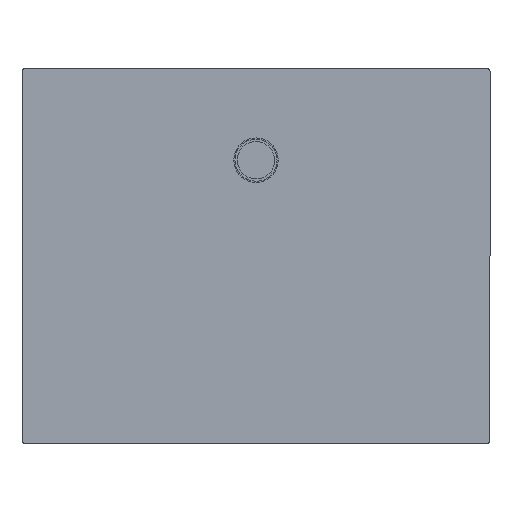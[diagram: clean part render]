
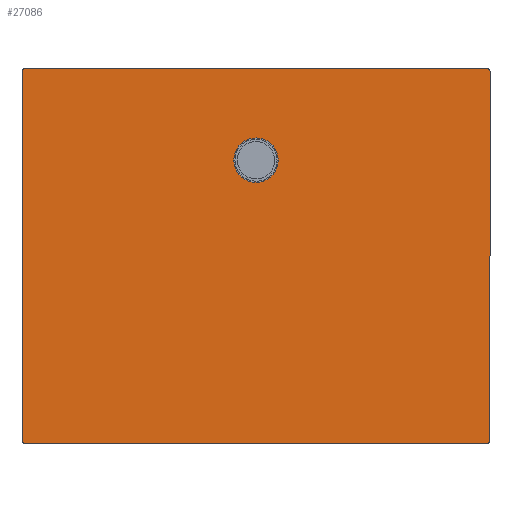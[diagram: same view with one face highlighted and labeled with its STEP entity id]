
A CAD part, front view. The second image highlights one B-rep face of the part: STEP entity #27086.
In plain terms, the highlighted planar face has unit normal (0, -1, 0).
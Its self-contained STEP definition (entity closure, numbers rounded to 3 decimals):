
#6941 = EDGE_LOOP ( 'NONE', ( #126104, #116680, #60200, #169422, #111875, #133953, #7779, #136006 ) ) ;
#7779 = ORIENTED_EDGE ( 'NONE', *, *, #47849, .F. ) ;
#8296 = DIRECTION ( 'NONE',  ( 1., 0., 0. ) ) ;
#9054 = LINE ( 'NONE', #126724, #114874 ) ;
#10847 = EDGE_CURVE ( 'NONE', #168323, #54880, #18102, .T. ) ;
#10975 = CARTESIAN_POINT ( 'NONE',  ( 500.698, -40., -600.699 ) ) ;
#12872 = CARTESIAN_POINT ( 'NONE',  ( 495.699, -40., -605.698 ) ) ;
#16513 = CARTESIAN_POINT ( 'NONE',  ( -495.699, -40., 195.698 ) ) ;
#16867 = VERTEX_POINT ( 'NONE', #89405 ) ;
#17803 = EDGE_CURVE ( 'NONE', #131172, #16867, #137944, .T. ) ;
#18102 =( BOUNDED_CURVE ( )  B_SPLINE_CURVE ( 3, ( #170037, #128833, #36965, #12872 ),
 .UNSPECIFIED., .F., .F. ) 
 B_SPLINE_CURVE_WITH_KNOTS ( ( 4, 4 ),
 ( 2.356, 3.927 ),
 .UNSPECIFIED. ) 
 CURVE ( )  GEOMETRIC_REPRESENTATION_ITEM ( )  RATIONAL_B_SPLINE_CURVE ( ( 1., 0.805, 0.805, 1. ) ) 
 REPRESENTATION_ITEM ( '' )  );
#25384 = EDGE_CURVE ( 'NONE', #131172, #44968, #9054, .T. ) ;
#27086 = ADVANCED_FACE ( 'NONE', ( #143657, #40627 ), #79298, .F. ) ;
#27518 = CARTESIAN_POINT ( 'NONE',  ( -498.628, -40., -605.698 ) ) ;
#32618 = AXIS2_PLACEMENT_3D ( 'NONE', #63750, #116126, #50864 ) ;
#33313 = EDGE_CURVE ( 'NONE', #67916, #44968, #138951, .T. ) ;
#36965 = CARTESIAN_POINT ( 'NONE',  ( 498.628, -40., -605.698 ) ) ;
#37407 = EDGE_CURVE ( 'NONE', #37457, #37457, #60070, .T. ) ;
#37457 = VERTEX_POINT ( 'NONE', #152569 ) ;
#37765 = EDGE_CURVE ( 'NONE', #168323, #89478, #128155, .T. ) ;
#38481 = VECTOR ( 'NONE', #45982, 1000. ) ;
#40529 = CARTESIAN_POINT ( 'NONE',  ( 498.628, -40., 195.698 ) ) ;
#40627 = FACE_OUTER_BOUND ( 'NONE', #6941, .T. ) ;
#41377 = CARTESIAN_POINT ( 'NONE',  ( 500.698, -40., 193.628 ) ) ;
#43397 = CARTESIAN_POINT ( 'NONE',  ( -500.698, -40., 190.699 ) ) ;
#43662 = VECTOR ( 'NONE', #8296, 1000. ) ;
#44968 = VERTEX_POINT ( 'NONE', #46553 ) ;
#45152 = EDGE_LOOP ( 'NONE', ( #86621 ) ) ;
#45982 = DIRECTION ( 'NONE',  ( -1., 0., 0. ) ) ;
#46553 = CARTESIAN_POINT ( 'NONE',  ( -500.698, -40., 190.699 ) ) ;
#47822 = LINE ( 'NONE', #64093, #43662 ) ;
#47849 = EDGE_CURVE ( 'NONE', #67916, #114670, #47822, .T. ) ;
#50864 = DIRECTION ( 'NONE',  ( 0., 0., 1. ) ) ;
#51592 = CARTESIAN_POINT ( 'NONE',  ( -500.698, -40., -600.699 ) ) ;
#51714 = CARTESIAN_POINT ( 'NONE',  ( 500.698, -40., 195. ) ) ;
#51807 = DIRECTION ( 'NONE',  ( 0., 0., 1. ) ) ;
#54880 = VERTEX_POINT ( 'NONE', #141551 ) ;
#55524 = CARTESIAN_POINT ( 'NONE',  ( -500.698, -40., -600.699 ) ) ;
#60070 = CIRCLE ( 'NONE', #32618, 47.5 ) ;
#60200 = ORIENTED_EDGE ( 'NONE', *, *, #120053, .F. ) ;
#60626 = DIRECTION ( 'NONE',  ( 0., 0., 1. ) ) ;
#63750 = CARTESIAN_POINT ( 'NONE',  ( 0., -40., 0. ) ) ;
#64093 = CARTESIAN_POINT ( 'NONE',  ( -500., -40., 195.698 ) ) ;
#65589 = AXIS2_PLACEMENT_3D ( 'NONE', #131629, #89611, #51807 ) ;
#67916 = VERTEX_POINT ( 'NONE', #16513 ) ;
#78222 = CARTESIAN_POINT ( 'NONE',  ( -500.698, -40., -603.628 ) ) ;
#79298 = PLANE ( 'NONE',  #65589 ) ;
#80356 = CARTESIAN_POINT ( 'NONE',  ( 495.699, -40., 195.698 ) ) ;
#86621 = ORIENTED_EDGE ( 'NONE', *, *, #37407, .T. ) ;
#86836 = EDGE_CURVE ( 'NONE', #114670, #89478, #133623, .T. ) ;
#89405 = CARTESIAN_POINT ( 'NONE',  ( -495.699, -40., -605.698 ) ) ;
#89478 = VERTEX_POINT ( 'NONE', #151625 ) ;
#89611 = DIRECTION ( 'NONE',  ( 0., 1., 0. ) ) ;
#93767 = CARTESIAN_POINT ( 'NONE',  ( 500.698, -40., 190.699 ) ) ;
#103977 = CARTESIAN_POINT ( 'NONE',  ( -495.699, -40., -605.698 ) ) ;
#111875 = ORIENTED_EDGE ( 'NONE', *, *, #37765, .T. ) ;
#114670 = VERTEX_POINT ( 'NONE', #80356 ) ;
#114874 = VECTOR ( 'NONE', #60626, 1000. ) ;
#116126 = DIRECTION ( 'NONE',  ( 0., 1., 0. ) ) ;
#116680 = ORIENTED_EDGE ( 'NONE', *, *, #17803, .T. ) ;
#120053 = EDGE_CURVE ( 'NONE', #54880, #16867, #161935, .T. ) ;
#123241 = CARTESIAN_POINT ( 'NONE',  ( -498.628, -40., 195.698 ) ) ;
#126104 = ORIENTED_EDGE ( 'NONE', *, *, #25384, .F. ) ;
#126724 = CARTESIAN_POINT ( 'NONE',  ( -500.698, -40., 195. ) ) ;
#128155 = LINE ( 'NONE', #51714, #156045 ) ;
#128833 = CARTESIAN_POINT ( 'NONE',  ( 500.698, -40., -603.628 ) ) ;
#131172 = VERTEX_POINT ( 'NONE', #55524 ) ;
#131629 = CARTESIAN_POINT ( 'NONE',  ( -500., -40., 195. ) ) ;
#133623 =( BOUNDED_CURVE ( )  B_SPLINE_CURVE ( 3, ( #159869, #40529, #41377, #93767 ),
 .UNSPECIFIED., .F., .T. ) 
 B_SPLINE_CURVE_WITH_KNOTS ( ( 4, 4 ),
 ( 2.356, 3.927 ),
 .UNSPECIFIED. ) 
 CURVE ( )  GEOMETRIC_REPRESENTATION_ITEM ( )  RATIONAL_B_SPLINE_CURVE ( ( 1., 0.805, 0.805, 1. ) ) 
 REPRESENTATION_ITEM ( '' )  );
#133953 = ORIENTED_EDGE ( 'NONE', *, *, #86836, .F. ) ;
#136006 = ORIENTED_EDGE ( 'NONE', *, *, #33313, .T. ) ;
#137944 =( BOUNDED_CURVE ( )  B_SPLINE_CURVE ( 3, ( #51592, #78222, #27518, #103977 ),
 .UNSPECIFIED., .F., .T. ) 
 B_SPLINE_CURVE_WITH_KNOTS ( ( 4, 4 ),
 ( 2.356, 3.927 ),
 .UNSPECIFIED. ) 
 CURVE ( )  GEOMETRIC_REPRESENTATION_ITEM ( )  RATIONAL_B_SPLINE_CURVE ( ( 1., 0.805, 0.805, 1. ) ) 
 REPRESENTATION_ITEM ( '' )  );
#138951 =( BOUNDED_CURVE ( )  B_SPLINE_CURVE ( 3, ( #161041, #123241, #148152, #43397 ),
 .UNSPECIFIED., .F., .T. ) 
 B_SPLINE_CURVE_WITH_KNOTS ( ( 4, 4 ),
 ( 2.356, 3.927 ),
 .UNSPECIFIED. ) 
 CURVE ( )  GEOMETRIC_REPRESENTATION_ITEM ( )  RATIONAL_B_SPLINE_CURVE ( ( 1., 0.805, 0.805, 1. ) ) 
 REPRESENTATION_ITEM ( '' )  );
#141551 = CARTESIAN_POINT ( 'NONE',  ( 495.699, -40., -605.698 ) ) ;
#143657 = FACE_BOUND ( 'NONE', #45152, .T. ) ;
#147347 = CARTESIAN_POINT ( 'NONE',  ( -500., -40., -605.698 ) ) ;
#148152 = CARTESIAN_POINT ( 'NONE',  ( -500.698, -40., 193.628 ) ) ;
#151625 = CARTESIAN_POINT ( 'NONE',  ( 500.698, -40., 190.699 ) ) ;
#152569 = CARTESIAN_POINT ( 'NONE',  ( 0., -40., 47.5 ) ) ;
#153085 = DIRECTION ( 'NONE',  ( 0., 0., 1. ) ) ;
#156045 = VECTOR ( 'NONE', #153085, 1000. ) ;
#159869 = CARTESIAN_POINT ( 'NONE',  ( 495.699, -40., 195.698 ) ) ;
#161041 = CARTESIAN_POINT ( 'NONE',  ( -495.699, -40., 195.698 ) ) ;
#161935 = LINE ( 'NONE', #147347, #38481 ) ;
#168323 = VERTEX_POINT ( 'NONE', #10975 ) ;
#169422 = ORIENTED_EDGE ( 'NONE', *, *, #10847, .F. ) ;
#170037 = CARTESIAN_POINT ( 'NONE',  ( 500.698, -40., -600.699 ) ) ;
